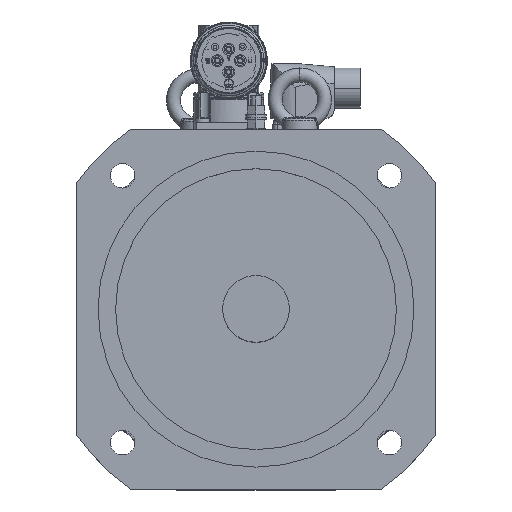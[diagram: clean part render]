
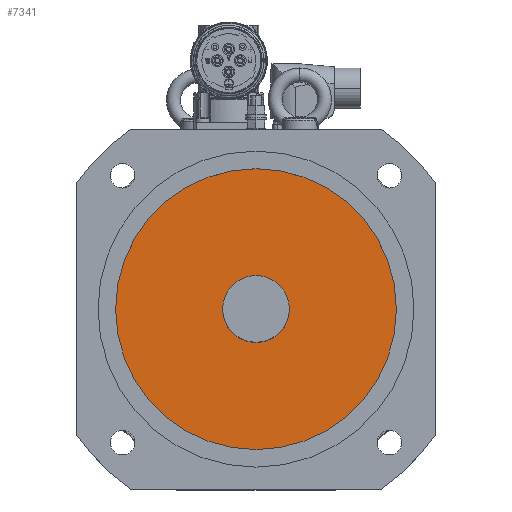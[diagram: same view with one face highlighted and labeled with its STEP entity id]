
A CAD part, top view. The second image highlights one B-rep face of the part: STEP entity #7341.
In plain terms, the highlighted planar face has unit normal (0, 0, 1).
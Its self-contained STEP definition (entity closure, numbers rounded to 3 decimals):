
#1404 = CARTESIAN_POINT ( 'NONE',  ( -19., 0., 52. ) ) ;
#6370 = EDGE_LOOP ( 'NONE', ( #30031, #30032 ) ) ;
#7341 = ADVANCED_FACE ( 'NONE', ( #22920, #22895 ), #20104, .T. ) ;
#9553 = EDGE_CURVE ( 'NONE', #31352, #29668, #16519, .T. ) ;
#9604 = EDGE_CURVE ( 'NONE', #31350, #31348, #16241, .T. ) ;
#9623 = EDGE_CURVE ( 'NONE', #29668, #31352, #16239, .T. ) ;
#9672 = EDGE_CURVE ( 'NONE', #31348, #31350, #16775, .T. ) ;
#15336 = EDGE_LOOP ( 'NONE', ( #30029, #30030 ) ) ;
#16239 = CIRCLE ( 'NONE', #29377, 19. ) ;
#16241 = CIRCLE ( 'NONE', #29374, 80. ) ;
#16519 = CIRCLE ( 'NONE', #29359, 19. ) ;
#16775 = CIRCLE ( 'NONE', #29387, 80. ) ;
#18355 = DIRECTION ( 'NONE',  ( 1., 0., 0. ) ) ;
#18357 = DIRECTION ( 'NONE',  ( 0., 0., 1. ) ) ;
#18379 = CARTESIAN_POINT ( 'NONE',  ( 0., 0., 52. ) ) ;
#18523 = DIRECTION ( 'NONE',  ( 1., 0., 0. ) ) ;
#18525 = DIRECTION ( 'NONE',  ( 0., 0., 1. ) ) ;
#18584 = CARTESIAN_POINT ( 'NONE',  ( 0., 0., 52. ) ) ;
#18585 = DIRECTION ( 'NONE',  ( 1., 0., 0. ) ) ;
#18586 = DIRECTION ( 'NONE',  ( 0., 0., 1. ) ) ;
#18590 = CARTESIAN_POINT ( 'NONE',  ( 0., 0., 52. ) ) ;
#18682 = DIRECTION ( 'NONE',  ( 1., 0., 0. ) ) ;
#18683 = DIRECTION ( 'NONE',  ( 0., 0., 1. ) ) ;
#18684 = CARTESIAN_POINT ( 'NONE',  ( 0., 0., 52. ) ) ;
#20098 = DIRECTION ( 'NONE',  ( 1., 0., 0. ) ) ;
#20099 = DIRECTION ( 'NONE',  ( 0., 0., 1. ) ) ;
#20104 = PLANE ( 'NONE',  #25034 ) ;
#20107 = CARTESIAN_POINT ( 'NONE',  ( 0., 0., 52. ) ) ;
#22895 = FACE_BOUND ( 'NONE', #6370, .T. ) ;
#22920 = FACE_OUTER_BOUND ( 'NONE', #15336, .T. ) ;
#25034 = AXIS2_PLACEMENT_3D ( 'NONE', #20107, #20099, #20098 ) ;
#27590 = CARTESIAN_POINT ( 'NONE',  ( 19., 0., 52. ) ) ;
#27593 = CARTESIAN_POINT ( 'NONE',  ( -80., 0., 52. ) ) ;
#27610 = CARTESIAN_POINT ( 'NONE',  ( 80., 0., 52. ) ) ;
#29359 = AXIS2_PLACEMENT_3D ( 'NONE', #18684, #18683, #18682 ) ;
#29374 = AXIS2_PLACEMENT_3D ( 'NONE', #18590, #18586, #18585 ) ;
#29377 = AXIS2_PLACEMENT_3D ( 'NONE', #18584, #18525, #18523 ) ;
#29387 = AXIS2_PLACEMENT_3D ( 'NONE', #18379, #18357, #18355 ) ;
#29668 = VERTEX_POINT ( 'NONE', #1404 ) ;
#30029 = ORIENTED_EDGE ( 'NONE', *, *, #9672, .T. ) ;
#30030 = ORIENTED_EDGE ( 'NONE', *, *, #9604, .T. ) ;
#30031 = ORIENTED_EDGE ( 'NONE', *, *, #9623, .F. ) ;
#30032 = ORIENTED_EDGE ( 'NONE', *, *, #9553, .F. ) ;
#31348 = VERTEX_POINT ( 'NONE', #27610 ) ;
#31350 = VERTEX_POINT ( 'NONE', #27593 ) ;
#31352 = VERTEX_POINT ( 'NONE', #27590 ) ;
